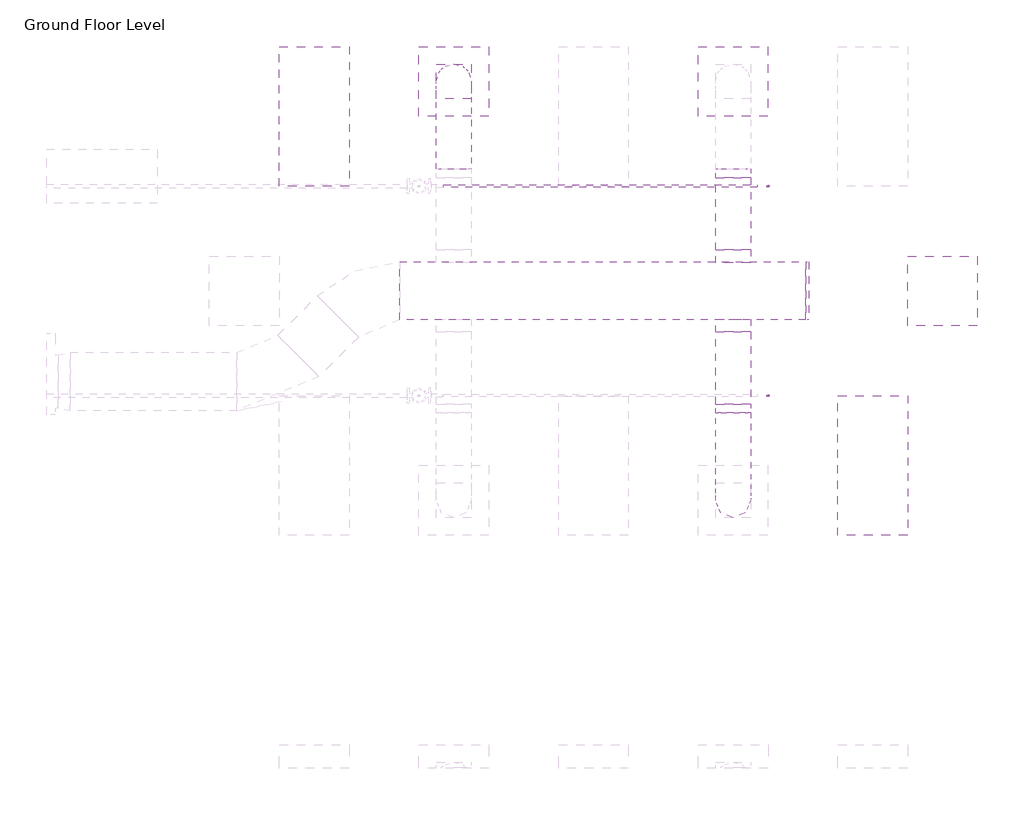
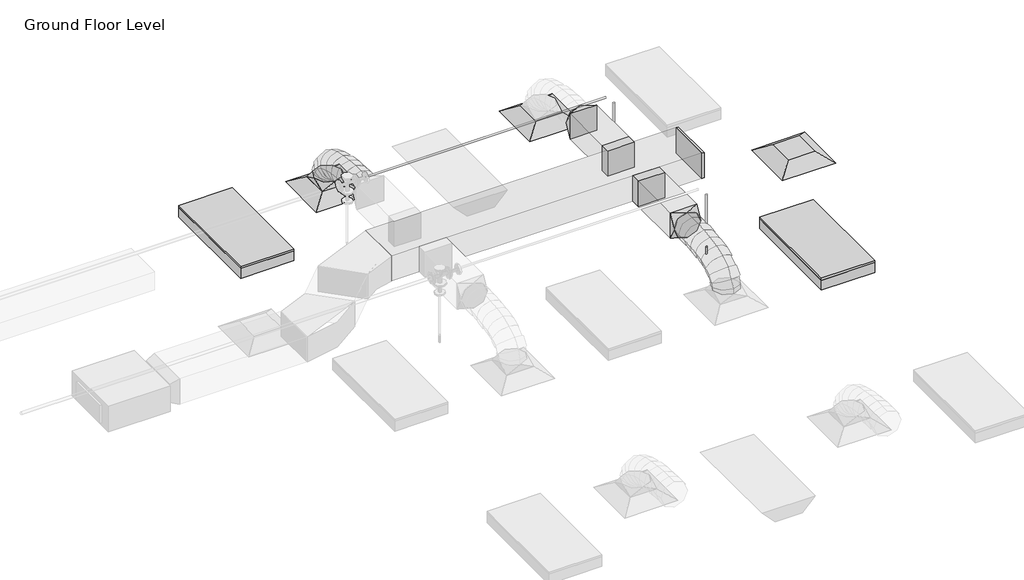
# One storey, part 67 of 68: 6 duct fittings, 5 duct segments, 3 air terminals, 3 pipe segments, 2 fire suppression terminals, 2 light fixtures.
"""IFC4 building model written with IfcOpenShell, lengths in millimetres."""

from ifc_helpers import new_model, si_unit, point, frame, frame_2d, origin, place, context, project, spatial, polyline, circle_curve, ellipse_curve, trimmed, segment, composite_curve, outline, extrude, transform, mapped, element, save
from ifc_brep_helpers import plane_surface, cylinder_surface, advanced_brep
from components import m_return_diffuser_600_x_600_face_300_x_300_connection_ff221211, m_rectangular_endcap_standard_72d4d00d, m_rectangular_takeoff_standard_cb0ccb98, m_rectangular_takeoff_standard_2be5eba1, m_rectangular_to_round_transition_angle_45_degree_641efff0, m_sprinkler_dry_pendent_hosted_15_mm_dry_pendent_9bda8e11, m_troffer_light_parabolic_rectangular1_0600x1200mm_4_lamp_86473d4a

model = new_model("IFC4")

# Units and contexts
model_context = context("Model", 3, world=origin())
ifc_project = project(units=[si_unit("LENGTHUNIT", "METRE", prefix="MILLI")], contexts=[model_context])

# Site, building, storey
site = spatial("IfcSite", under=ifc_project)
building = spatial("IfcBuilding", under=site)
storey = spatial("IfcBuildingStorey", under=building, Name="Ground Floor Level", Elevation=900.0)

# Air terminals
placement = place(None, origin())
m_return_diffuser_600_x_600_face_300_x_300_connection_shape = m_return_diffuser_600_x_600_face_300_x_300_connection_ff221211(model_context)
element("IfcAirTerminal", 1, ObjectType="M_Return Diffuser : 600 x 600 Face 300 x 300 Connection", at=placement, inside=storey, context=model_context, shape_type="MappedRepresentation", body=[
    mapped(m_return_diffuser_600_x_600_face_300_x_300_connection_shape, transform((14942.7672395, 18735.2153534, 3650.0), x_axis=(1.0, 0.0, 0.0), y_axis=(0.0, 1.0, 0.0), z_axis=(0.0, 0.0, 1.0))),
])
element("IfcAirTerminal", 2, ObjectType="M_Supply Diffuser : 600 x 600 Face 300 x 300 Connection", at=placement, inside=storey, context=model_context, shape_type="MappedRepresentation", body=[
    mapped(m_return_diffuser_600_x_600_face_300_x_300_connection_shape, transform((10742.7672395, 20535.2153534, 3650.0), x_axis=(1.0, 0.0, 0.0), y_axis=(0.0, 1.0, 0.0), z_axis=(0.0, 0.0, 1.0))),
])
element("IfcAirTerminal", 3, ObjectType="M_Supply Diffuser : 600 x 600 Face 300 x 300 Connection", at=placement, inside=storey, context=model_context, shape_type="MappedRepresentation", body=[
    mapped(m_return_diffuser_600_x_600_face_300_x_300_connection_shape, transform((13142.7672395, 20535.2153534, 3650.0), x_axis=(1.0, 0.0, 0.0), y_axis=(0.0, 1.0, 0.0), z_axis=(0.0, 0.0, 1.0))),
])

# Duct fittings
m_rectangular_endcap_standard_shape = m_rectangular_endcap_standard_72d4d00d(model_context)
element("IfcDuctFitting", 4, ObjectType="M_Rectangular Endcap : Standard", at=placement, inside=storey, context=model_context, shape_type="MappedRepresentation", body=[
    mapped(m_rectangular_endcap_standard_shape, transform((13766.7301365, 18735.2153534, 4100.0), x_axis=(1.0, 0.0, 0.0), y_axis=(0.0, 1.0, 0.0), z_axis=(0.0, 0.0, 1.0))),
])
m_rectangular_takeoff_standard_shape = m_rectangular_takeoff_standard_cb0ccb98(model_context)
element("IfcDuctFitting", 5, ObjectType="M_Rectangular Takeoff : Standard", at=placement, inside=storey, context=model_context, shape_type="MappedRepresentation", body=[
    mapped(m_rectangular_takeoff_standard_shape, transform((13142.7672395, 18985.2153534, 4100.0), x_axis=(0.0, 1.0, 0.0), y_axis=(1.0, 0.0, 0.0), z_axis=(0.0, 0.0, -1.0))),
])
m_rectangular_takeoff_standard_2_shape = m_rectangular_takeoff_standard_2be5eba1(model_context)
element("IfcDuctFitting", 6, ObjectType="M_Rectangular Takeoff : Standard", at=placement, inside=storey, context=model_context, shape_type="MappedRepresentation", body=[
    mapped(m_rectangular_takeoff_standard_2_shape, transform((13142.7672395, 18485.2153534, 4100.0), x_axis=(0.0, -1.0, 0.0), y_axis=(-1.0, 0.0, 0.0), z_axis=(0.0, 0.0, -1.0))),
])
m_rectangular_to_round_transition_angle_45_degree_shape = m_rectangular_to_round_transition_angle_45_degree_641efff0(model_context)
element("IfcDuctFitting", 7, ObjectType="M_Rectangular to Round Transition - Angle : 45 Degree", at=placement, inside=storey, context=model_context, shape_type="MappedRepresentation", body=[
    mapped(m_rectangular_to_round_transition_angle_45_degree_shape, transform((10742.7672395, 20535.2153534, 3751.6), x_axis=(0.0, 0.0, 1.0), y_axis=(-1.0, 0.0, 0.0), z_axis=(0.0, -1.0, 0.0))),
])
element("IfcDuctFitting", 8, ObjectType="M_Rectangular to Round Transition - Angle : 45 Degree", at=placement, inside=storey, context=model_context, shape_type="MappedRepresentation", body=[
    mapped(m_rectangular_to_round_transition_angle_45_degree_shape, transform((13142.7672395, 19707.8794221, 4100.0), x_axis=(0.0, 1.0, 0.0), y_axis=(-1.0, 0.0, 0.0), z_axis=(0.0, 0.0, 1.0))),
])
element("IfcDuctFitting", 9, ObjectType="M_Rectangular to Round Transition - Angle : 45 Degree", at=placement, inside=storey, context=model_context, shape_type="MappedRepresentation", body=[
    mapped(m_rectangular_to_round_transition_angle_45_degree_shape, transform((13142.7672395, 17762.5512847, 4100.0), x_axis=(0.0, -1.0, 0.0), y_axis=(1.0, 0.0, 0.0), z_axis=(0.0, 0.0, 1.0))),
])

# Duct segments
element("IfcDuctSegment", 10, ObjectType="Flex - Round", at=placement, inside=storey, context=model_context, shape_type="AdvancedBrep", body=[
    advanced_brep(
    [(10892.7672395, 20535.2153534, 3826.6), (10742.7672395, 20385.2153534, 3826.6), (10592.7672395, 20535.2153534, 3826.6), (10742.7672395, 20685.2153534, 3826.6), (10892.7672395, 20535.2153534, 3857.9377114), (10742.7672395, 20385.2153534, 3832.2944892), (10592.7672395, 20535.2153534, 3857.9377114), (10742.7672395, 20685.2153534, 3883.5809337), (10892.7672395, 20518.1994208, 3906.2505728), (10742.7672395, 20384.4614419, 3834.435049), (10592.7672395, 20518.1994208, 3906.2505728), (10742.7672395, 20651.9373998, 3978.0660967), (10892.7672395, 20471.0155405, 3968.7113131), (10742.7672395, 20366.8096412, 3857.8020236), (10592.7672395, 20471.0155405, 3968.7113131), (10742.7672395, 20575.2214397, 4079.6206026), (10892.7672395, 20399.4595883, 4016.0700639), (10742.7672395, 20330.5255327, 3881.8163788), (10592.7672395, 20399.4595883, 4016.0700639), (10742.7672395, 20468.3936439, 4150.3237489), (10892.7672395, 20309.3274403, 4050.4146682), (10742.7672395, 20265.7666771, 3906.4925606), (10592.7672395, 20309.3274403, 4050.4146682), (10742.7672395, 20352.8882035, 4194.3367758), (10892.7672395, 20206.4149725, 4073.8329691), (10742.7672395, 20179.8540485, 3926.0424542), (10592.7672395, 20206.4149725, 4073.8329691), (10742.7672395, 20232.9758965, 4221.6234841), (10892.7672395, 20096.5180607, 4088.4128097), (10742.7672395, 20081.3671584, 3939.1085462), (10592.7672395, 20096.5180607, 4088.4128097), (10742.7672395, 20111.6689631, 4237.7170733), (10892.7672395, 19985.4325811, 4096.242033), (10742.7672395, 19977.9272529, 3946.398915), (10592.7672395, 19985.4325811, 4096.242033), (10742.7672395, 19992.9379093, 4246.085151), (10892.7672395, 19878.9544096, 4099.4084821), (10742.7672395, 19876.2629165, 3949.4222102), (10592.7672395, 19878.9544096, 4099.4084821), (10742.7672395, 19881.6459027, 4249.394754), (10892.7672395, 19782.8794221, 4100.0), (10742.7672395, 19783.8029299, 4249.9971571), (10592.7672395, 19782.8794221, 4100.0), (10742.7672395, 19781.9559143, 3950.0028429)],
    [
        (0, 1, circle_curve(frame((10742.7672395, 20535.2153534, 3826.6), z_axis=(0.0, 0.0, -1.0), x_axis=(1.0, 0.0, 0.0)), 150.0)),
        (1, 2, circle_curve(frame((10742.7672395, 20535.2153534, 3826.6), z_axis=(0.0, 0.0, -1.0), x_axis=(1.0, 0.0, 0.0)), 150.0)),
        (2, 3, circle_curve(frame((10742.7672395, 20535.2153534, 3826.6), z_axis=(0.0, 0.0, -1.0), x_axis=(1.0, 0.0, 0.0)), 150.0)),
        (3, 0, circle_curve(frame((10742.7672395, 20535.2153534, 3826.6), z_axis=(0.0, 0.0, -1.0), x_axis=(1.0, 0.0, 0.0)), 150.0)),
        (0, 4),
        (4, 5, ellipse_curve(frame((10742.7672395, 20535.2153534, 3857.9377114), z_axis=(0.0, 0.16851014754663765, -0.9856999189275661), x_axis=(0.0, -0.985699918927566, -0.1685101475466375)), 152.176131, 150.0)),
        (5, 1),
        (5, 6, ellipse_curve(frame((10742.7672395, 20535.2153534, 3857.9377114), z_axis=(0.0, 0.16851014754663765, -0.9856999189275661), x_axis=(0.0, -0.985699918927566, -0.1685101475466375)), 152.176131, 150.0)),
        (6, 2),
        (6, 7, ellipse_curve(frame((10742.7672395, 20535.2153534, 3857.9377114), z_axis=(0.0, 0.16851014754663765, -0.9856999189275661), x_axis=(0.0, -0.985699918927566, -0.1685101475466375)), 152.176131, 150.0)),
        (7, 3),
        (7, 4, ellipse_curve(frame((10742.7672395, 20535.2153534, 3857.9377114), z_axis=(0.0, 0.16851014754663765, -0.9856999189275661), x_axis=(0.0, -0.985699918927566, -0.1685101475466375)), 152.176131, 150.0)),
        (4, 8),
        (8, 9, ellipse_curve(frame((10742.7672395, 20518.1994208, 3906.2505728), z_axis=(0.0, 0.4730922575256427, -0.881012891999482), x_axis=(0.0, -0.8810128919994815, -0.4730922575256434)), 151.8002519, 150.0)),
        (9, 5),
        (9, 10, ellipse_curve(frame((10742.7672395, 20518.1994208, 3906.2505728), z_axis=(0.0, 0.4730922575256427, -0.881012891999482), x_axis=(0.0, -0.8810128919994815, -0.4730922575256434)), 151.8002519, 150.0)),
        (10, 6),
        (10, 11, ellipse_curve(frame((10742.7672395, 20518.1994208, 3906.2505728), z_axis=(0.0, 0.4730922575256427, -0.881012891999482), x_axis=(0.0, -0.8810128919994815, -0.4730922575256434)), 151.8002519, 150.0)),
        (11, 7),
        (11, 8, ellipse_curve(frame((10742.7672395, 20518.1994208, 3906.2505728), z_axis=(0.0, 0.4730922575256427, -0.881012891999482), x_axis=(0.0, -0.8810128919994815, -0.4730922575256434)), 151.8002519, 150.0)),
        (8, 12),
        (12, 13, ellipse_curve(frame((10742.7672395, 20471.0155405, 3968.7113131), z_axis=(0.0, 0.7287877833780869, -0.68473963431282), x_axis=(0.0, -0.6847396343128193, -0.7287877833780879)), 152.1832446, 150.0)),
        (13, 9),
        (13, 14, ellipse_curve(frame((10742.7672395, 20471.0155405, 3968.7113131), z_axis=(0.0, 0.7287877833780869, -0.68473963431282), x_axis=(0.0, -0.6847396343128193, -0.7287877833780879)), 152.1832446, 150.0)),
        (14, 10),
        (14, 15, ellipse_curve(frame((10742.7672395, 20471.0155405, 3968.7113131), z_axis=(0.0, 0.7287877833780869, -0.68473963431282), x_axis=(0.0, -0.6847396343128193, -0.7287877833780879)), 152.1832446, 150.0)),
        (15, 11),
        (15, 12, ellipse_curve(frame((10742.7672395, 20471.0155405, 3968.7113131), z_axis=(0.0, 0.7287877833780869, -0.68473963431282), x_axis=(0.0, -0.6847396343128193, -0.7287877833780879)), 152.1832446, 150.0)),
        (12, 16),
        (16, 17, ellipse_curve(frame((10742.7672395, 20399.4595883, 4016.0700639), z_axis=(0.0, 0.8895859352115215, -0.45676784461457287), x_axis=(0.0, -0.45676784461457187, -0.889585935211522)), 150.91705, 150.0)),
        (17, 13),
        (17, 18, ellipse_curve(frame((10742.7672395, 20399.4595883, 4016.0700639), z_axis=(0.0, 0.8895859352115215, -0.45676784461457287), x_axis=(0.0, -0.45676784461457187, -0.889585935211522)), 150.91705, 150.0)),
        (18, 14),
        (18, 19, ellipse_curve(frame((10742.7672395, 20399.4595883, 4016.0700639), z_axis=(0.0, 0.8895859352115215, -0.45676784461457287), x_axis=(0.0, -0.45676784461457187, -0.889585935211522)), 150.91705, 150.0)),
        (19, 15),
        (19, 16, ellipse_curve(frame((10742.7672395, 20399.4595883, 4016.0700639), z_axis=(0.0, 0.8895859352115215, -0.45676784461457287), x_axis=(0.0, -0.45676784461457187, -0.889585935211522)), 150.91705, 150.0)),
        (16, 20),
        (20, 21, ellipse_curve(frame((10742.7672395, 20309.3274403, 4050.4146682), z_axis=(0.0, 0.9571203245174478, -0.2896906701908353), x_axis=(0.0, -0.28969067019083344, -0.9571203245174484)), 150.369921, 150.0)),
        (21, 17),
        (21, 22, ellipse_curve(frame((10742.7672395, 20309.3274403, 4050.4146682), z_axis=(0.0, 0.9571203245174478, -0.2896906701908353), x_axis=(0.0, -0.28969067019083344, -0.9571203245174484)), 150.369921, 150.0)),
        (22, 18),
        (22, 23, ellipse_curve(frame((10742.7672395, 20309.3274403, 4050.4146682), z_axis=(0.0, 0.9571203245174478, -0.2896906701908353), x_axis=(0.0, -0.28969067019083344, -0.9571203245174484)), 150.369921, 150.0)),
        (23, 19),
        (23, 20, ellipse_curve(frame((10742.7672395, 20309.3274403, 4050.4146682), z_axis=(0.0, 0.9571203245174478, -0.2896906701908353), x_axis=(0.0, -0.28969067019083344, -0.9571203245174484)), 150.369921, 150.0)),
        (20, 24),
        (24, 25, ellipse_curve(frame((10742.7672395, 20206.4149725, 4073.8329691), z_axis=(0.0, 0.9842313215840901, -0.17688613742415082), x_axis=(0.0, -0.17688613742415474, -0.9842313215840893)), 150.1583131, 150.0)),
        (25, 21),
        (25, 26, ellipse_curve(frame((10742.7672395, 20206.4149725, 4073.8329691), z_axis=(0.0, 0.9842313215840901, -0.17688613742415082), x_axis=(0.0, -0.17688613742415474, -0.9842313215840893)), 150.1583131, 150.0)),
        (26, 22),
        (26, 27, ellipse_curve(frame((10742.7672395, 20206.4149725, 4073.8329691), z_axis=(0.0, 0.9842313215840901, -0.17688613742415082), x_axis=(0.0, -0.17688613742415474, -0.9842313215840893)), 150.1583131, 150.0)),
        (27, 23),
        (27, 24, ellipse_curve(frame((10742.7672395, 20206.4149725, 4073.8329691), z_axis=(0.0, 0.9842313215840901, -0.17688613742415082), x_axis=(0.0, -0.17688613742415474, -0.9842313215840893)), 150.1583131, 150.0)),
        (24, 28),
        (28, 29, ellipse_curve(frame((10742.7672395, 20096.5180607, 4088.4128097), z_axis=(0.0, 0.9948906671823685, -0.10095821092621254), x_axis=(0.0, -0.10095821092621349, -0.9948906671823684)), 150.0710264, 150.0)),
        (29, 25),
        (29, 30, ellipse_curve(frame((10742.7672395, 20096.5180607, 4088.4128097), z_axis=(0.0, 0.9948906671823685, -0.10095821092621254), x_axis=(0.0, -0.10095821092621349, -0.9948906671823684)), 150.0710264, 150.0)),
        (30, 26),
        (30, 31, ellipse_curve(frame((10742.7672395, 20096.5180607, 4088.4128097), z_axis=(0.0, 0.9948906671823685, -0.10095821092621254), x_axis=(0.0, -0.10095821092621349, -0.9948906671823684)), 150.0710264, 150.0)),
        (31, 27),
        (31, 28, ellipse_curve(frame((10742.7672395, 20096.5180607, 4088.4128097), z_axis=(0.0, 0.9948906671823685, -0.10095821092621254), x_axis=(0.0, -0.10095821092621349, -0.9948906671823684)), 150.0710264, 150.0)),
        (28, 32),
        (32, 33, ellipse_curve(frame((10742.7672395, 19985.4325811, 4096.242033), z_axis=(0.0, 0.9987479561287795, -0.05002519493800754), x_axis=(0.0, -0.05002519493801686, -0.9987479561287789)), 150.0309634, 150.0)),
        (33, 29),
        (33, 34, ellipse_curve(frame((10742.7672395, 19985.4325811, 4096.242033), z_axis=(0.0, 0.9987479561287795, -0.05002519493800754), x_axis=(0.0, -0.05002519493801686, -0.9987479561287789)), 150.0309634, 150.0)),
        (34, 30),
        (34, 35, ellipse_curve(frame((10742.7672395, 19985.4325811, 4096.242033), z_axis=(0.0, 0.9987479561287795, -0.05002519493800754), x_axis=(0.0, -0.05002519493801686, -0.9987479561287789)), 150.0309634, 150.0)),
        (35, 31),
        (35, 32, ellipse_curve(frame((10742.7672395, 19985.4325811, 4096.242033), z_axis=(0.0, 0.9987479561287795, -0.05002519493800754), x_axis=(0.0, -0.05002519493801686, -0.9987479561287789)), 150.0309634, 150.0)),
        (32, 36),
        (36, 37, ellipse_curve(frame((10742.7672395, 19878.9544096, 4099.4084821), z_axis=(0.0, 0.9998390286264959, -0.017942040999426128), x_axis=(0.0, -0.017942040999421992, -0.999839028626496)), 150.0104193, 150.0)),
        (37, 33),
        (37, 38, ellipse_curve(frame((10742.7672395, 19878.9544096, 4099.4084821), z_axis=(0.0, 0.9998390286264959, -0.017942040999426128), x_axis=(0.0, -0.017942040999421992, -0.999839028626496)), 150.0104193, 150.0)),
        (38, 34),
        (38, 39, ellipse_curve(frame((10742.7672395, 19878.9544096, 4099.4084821), z_axis=(0.0, 0.9998390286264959, -0.017942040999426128), x_axis=(0.0, -0.017942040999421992, -0.999839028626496)), 150.0104193, 150.0)),
        (39, 35),
        (39, 36, ellipse_curve(frame((10742.7672395, 19878.9544096, 4099.4084821), z_axis=(0.0, 0.9998390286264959, -0.017942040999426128), x_axis=(0.0, -0.017942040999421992, -0.999839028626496)), 150.0104193, 150.0)),
        (40, 41, circle_curve(frame((10742.7672395, 19782.8794221, 4100.0), z_axis=(0.0, -0.9999810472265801, 0.006156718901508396), x_axis=(1.0, 0.0, 0.0)), 150.0)),
        (41, 42, circle_curve(frame((10742.7672395, 19782.8794221, 4100.0), z_axis=(0.0, -0.9999810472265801, 0.006156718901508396), x_axis=(1.0, 0.0, 0.0)), 150.0)),
        (42, 43, circle_curve(frame((10742.7672395, 19782.8794221, 4100.0), z_axis=(0.0, -0.9999810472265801, 0.006156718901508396), x_axis=(1.0, 0.0, 0.0)), 150.0)),
        (43, 40, circle_curve(frame((10742.7672395, 19782.8794221, 4100.0), z_axis=(0.0, -0.9999810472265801, 0.006156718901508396), x_axis=(1.0, 0.0, 0.0)), 150.0)),
        (36, 40),
        (43, 37),
        (42, 38),
        (41, 39),
    ],
    [
        plane_surface(frame((10742.7672395, 20385.2153534, 3826.6), z_axis=(0.0, 0.0, -1.0), x_axis=(1.0, 0.0, 0.0))),
        cylinder_surface(frame((10742.7672395, 20535.2153534, 3826.6), z_axis=(0.0, 0.0, -1.0), x_axis=(1.0, 0.0, 0.0)), 150.0),
        cylinder_surface(frame((10742.7672395, 20535.2153534, 3857.9377114), z_axis=(0.0, 0.33220087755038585, -0.9432086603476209), x_axis=(1.0, 0.0, 0.0)), 150.0),
        cylinder_surface(frame((10742.7672395, 20518.1994208, 3906.2505728), z_axis=(0.0, 0.6027625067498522, -0.7979206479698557), x_axis=(1.0, 0.0, 0.0)), 150.0),
        cylinder_surface(frame((10742.7672395, 20471.0155405, 3968.7113131), z_axis=(0.0, 0.833902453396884, -0.5519118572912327), x_axis=(1.0, 0.0, 0.0)), 150.0),
        cylinder_surface(frame((10742.7672395, 20399.4595883, 4016.0700639), z_axis=(0.0, 0.9344582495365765, -0.3560727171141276), x_axis=(1.0, 0.0, 0.0)), 150.0),
        cylinder_surface(frame((10742.7672395, 20309.3274403, 4050.4146682), z_axis=(0.0, 0.9750732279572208, -0.2218833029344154), x_axis=(1.0, 0.0, 0.0)), 150.0),
        cylinder_surface(frame((10742.7672395, 20206.4149725, 4073.8329691), z_axis=(0.0, 0.991314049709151, -0.13151598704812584), x_axis=(1.0, 0.0, 0.0)), 150.0),
        cylinder_surface(frame((10742.7672395, 20096.5180607, 4088.4128097), z_axis=(0.0, 0.9975255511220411, -0.07030487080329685), x_axis=(1.0, 0.0, 0.0)), 150.0),
        cylinder_surface(frame((10742.7672395, 19985.4325811, 4096.242033), z_axis=(0.0, 0.9995581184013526, -0.02972487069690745), x_axis=(1.0, 0.0, 0.0)), 150.0),
        plane_surface(frame((10742.7672395, 19781.9559143, 3950.0028429), z_axis=(0.0, -0.9999810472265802, 0.006156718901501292), x_axis=(1.0, 0.0, 0.0))),
        cylinder_surface(frame((10742.7672395, 19878.9544096, 4099.4084821), z_axis=(0.0, 0.9999810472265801, -0.006156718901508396), x_axis=(1.0, 0.0, 0.0)), 150.0),
    ],
    [
        (0, [[1, 2, 3, 4]]),
        (1, [[-1, 5, 6, 7]]),
        (1, [[-2, -7, 8, 9]]),
        (1, [[-3, -9, 10, 11]]),
        (1, [[-4, -11, 12, -5]]),
        (2, [[-6, 13, 14, 15]]),
        (2, [[-8, -15, 16, 17]]),
        (2, [[-10, -17, 18, 19]]),
        (2, [[-12, -19, 20, -13]]),
        (3, [[-14, 21, 22, 23]]),
        (3, [[-16, -23, 24, 25]]),
        (3, [[-18, -25, 26, 27]]),
        (3, [[-20, -27, 28, -21]]),
        (4, [[-22, 29, 30, 31]]),
        (4, [[-24, -31, 32, 33]]),
        (4, [[-26, -33, 34, 35]]),
        (4, [[-28, -35, 36, -29]]),
        (5, [[-30, 37, 38, 39]]),
        (5, [[-32, -39, 40, 41]]),
        (5, [[-34, -41, 42, 43]]),
        (5, [[-36, -43, 44, -37]]),
        (6, [[-38, 45, 46, 47]]),
        (6, [[-40, -47, 48, 49]]),
        (6, [[-42, -49, 50, 51]]),
        (6, [[-44, -51, 52, -45]]),
        (7, [[-46, 53, 54, 55]]),
        (7, [[-48, -55, 56, 57]]),
        (7, [[-50, -57, 58, 59]]),
        (7, [[-52, -59, 60, -53]]),
        (8, [[-54, 61, 62, 63]]),
        (8, [[-56, -63, 64, 65]]),
        (8, [[-58, -65, 66, 67]]),
        (8, [[-60, -67, 68, -61]]),
        (9, [[-62, 69, 70, 71]]),
        (9, [[-64, -71, 72, 73]]),
        (9, [[-66, -73, 74, 75]]),
        (9, [[-68, -75, 76, -69]]),
        (10, [[77, 78, 79, 80]]),
        (11, [[-70, 81, -80, 82]]),
        (11, [[-72, -82, -79, 83]]),
        (11, [[-74, -83, -78, 84]]),
        (11, [[-76, -84, -77, -81]]),
    ],
),
])
element("IfcDuctSegment", 11, ObjectType="Flex - Round", at=placement, inside=storey, context=model_context, shape_type="AdvancedBrep", body=[
    advanced_brep(
    [(13292.7672395, 16935.2153534, 3826.6), (13142.7672395, 16785.2153534, 3826.6), (12992.7672395, 16935.2153534, 3826.6), (13142.7672395, 17085.2153534, 3826.6), (13292.7672395, 16935.2153534, 3857.9377114), (13142.7672395, 16785.2153534, 3883.5809337), (12992.7672395, 16935.2153534, 3857.9377114), (13142.7672395, 17085.2153534, 3832.2944892), (13292.7672395, 16952.2312859, 3906.2505728), (13142.7672395, 16818.493307, 3978.0660967), (12992.7672395, 16952.2312859, 3906.2505728), (13142.7672395, 17085.9692649, 3834.435049), (13292.7672395, 16999.4151663, 3968.7113131), (13142.7672395, 16895.209267, 4079.6206026), (12992.7672395, 16999.4151663, 3968.7113131), (13142.7672395, 17103.6210655, 3857.8020236), (13292.7672395, 17070.9711184, 4016.0700639), (13142.7672395, 17002.0370628, 4150.3237489), (12992.7672395, 17070.9711184, 4016.0700639), (13142.7672395, 17139.9051741, 3881.8163788), (13292.7672395, 17161.1032664, 4050.4146682), (13142.7672395, 17117.5425033, 4194.3367758), (12992.7672395, 17161.1032664, 4050.4146682), (13142.7672395, 17204.6640296, 3906.4925606), (13292.7672395, 17264.0157343, 4073.8329691), (13142.7672395, 17237.4548103, 4221.6234841), (12992.7672395, 17264.0157343, 4073.8329691), (13142.7672395, 17290.5766583, 3926.0424542), (13292.7672395, 17373.912646, 4088.4128097), (13142.7672395, 17358.7617437, 4237.7170733), (12992.7672395, 17373.912646, 4088.4128097), (13142.7672395, 17389.0635483, 3939.1085462), (13292.7672395, 17484.9981256, 4096.242033), (13142.7672395, 17477.4927975, 4246.085151), (12992.7672395, 17484.9981256, 4096.242033), (13142.7672395, 17492.5034538, 3946.398915), (13292.7672395, 17591.4762972, 4099.4084821), (13142.7672395, 17588.7848041, 4249.394754), (12992.7672395, 17591.4762972, 4099.4084821), (13142.7672395, 17594.1677903, 3949.4222102), (13292.7672395, 17687.5512847, 4100.0), (13142.7672395, 17688.4747925, 3950.0028429), (12992.7672395, 17687.5512847, 4100.0), (13142.7672395, 17686.6277768, 4249.9971571)],
    [
        (0, 1, circle_curve(frame((13142.7672395, 16935.2153534, 3826.6), z_axis=(0.0, 0.0, -1.0), x_axis=(1.0, 0.0, 0.0)), 150.0)),
        (1, 2, circle_curve(frame((13142.7672395, 16935.2153534, 3826.6), z_axis=(0.0, 0.0, -1.0), x_axis=(1.0, 0.0, 0.0)), 150.0)),
        (2, 3, circle_curve(frame((13142.7672395, 16935.2153534, 3826.6), z_axis=(0.0, 0.0, -1.0), x_axis=(1.0, 0.0, 0.0)), 150.0)),
        (3, 0, circle_curve(frame((13142.7672395, 16935.2153534, 3826.6), z_axis=(0.0, 0.0, -1.0), x_axis=(1.0, 0.0, 0.0)), 150.0)),
        (0, 4),
        (4, 5, ellipse_curve(frame((13142.7672395, 16935.2153534, 3857.9377114), z_axis=(0.0, -0.16851014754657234, -0.9856999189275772), x_axis=(0.0, 0.9856999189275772, -0.1685101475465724)), 152.176131, 150.0)),
        (5, 1),
        (5, 6, ellipse_curve(frame((13142.7672395, 16935.2153534, 3857.9377114), z_axis=(0.0, -0.16851014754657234, -0.9856999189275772), x_axis=(0.0, 0.9856999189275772, -0.1685101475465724)), 152.176131, 150.0)),
        (6, 2),
        (6, 7, ellipse_curve(frame((13142.7672395, 16935.2153534, 3857.9377114), z_axis=(0.0, -0.16851014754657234, -0.9856999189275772), x_axis=(0.0, 0.9856999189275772, -0.1685101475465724)), 152.176131, 150.0)),
        (7, 3),
        (7, 4, ellipse_curve(frame((13142.7672395, 16935.2153534, 3857.9377114), z_axis=(0.0, -0.16851014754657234, -0.9856999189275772), x_axis=(0.0, 0.9856999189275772, -0.1685101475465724)), 152.176131, 150.0)),
        (4, 8),
        (8, 9, ellipse_curve(frame((13142.7672395, 16952.2312859, 3906.2505728), z_axis=(0.0, -0.4730922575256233, -0.8810128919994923), x_axis=(0.0, 0.8810128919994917, -0.47309225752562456)), 151.8002519, 150.0)),
        (9, 5),
        (9, 10, ellipse_curve(frame((13142.7672395, 16952.2312859, 3906.2505728), z_axis=(0.0, -0.4730922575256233, -0.8810128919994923), x_axis=(0.0, 0.8810128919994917, -0.47309225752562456)), 151.8002519, 150.0)),
        (10, 6),
        (10, 11, ellipse_curve(frame((13142.7672395, 16952.2312859, 3906.2505728), z_axis=(0.0, -0.4730922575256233, -0.8810128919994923), x_axis=(0.0, 0.8810128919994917, -0.47309225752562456)), 151.8002519, 150.0)),
        (11, 7),
        (11, 8, ellipse_curve(frame((13142.7672395, 16952.2312859, 3906.2505728), z_axis=(0.0, -0.4730922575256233, -0.8810128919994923), x_axis=(0.0, 0.8810128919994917, -0.47309225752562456)), 151.8002519, 150.0)),
        (8, 12),
        (12, 13, ellipse_curve(frame((13142.7672395, 16999.4151663, 3968.7113131), z_axis=(0.0, -0.7287877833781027, -0.684739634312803), x_axis=(0.0, 0.6847396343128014, -0.7287877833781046)), 152.1832446, 150.0)),
        (13, 9),
        (13, 14, ellipse_curve(frame((13142.7672395, 16999.4151663, 3968.7113131), z_axis=(0.0, -0.7287877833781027, -0.684739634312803), x_axis=(0.0, 0.6847396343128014, -0.7287877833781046)), 152.1832446, 150.0)),
        (14, 10),
        (14, 15, ellipse_curve(frame((13142.7672395, 16999.4151663, 3968.7113131), z_axis=(0.0, -0.7287877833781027, -0.684739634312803), x_axis=(0.0, 0.6847396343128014, -0.7287877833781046)), 152.1832446, 150.0)),
        (15, 11),
        (15, 12, ellipse_curve(frame((13142.7672395, 16999.4151663, 3968.7113131), z_axis=(0.0, -0.7287877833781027, -0.684739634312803), x_axis=(0.0, 0.6847396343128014, -0.7287877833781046)), 152.1832446, 150.0)),
        (12, 16),
        (16, 17, ellipse_curve(frame((13142.7672395, 17070.9711184, 4016.0700639), z_axis=(0.0, -0.8895859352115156, -0.45676784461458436), x_axis=(0.0, 0.45676784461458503, -0.8895859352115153)), 150.91705, 150.0)),
        (17, 13),
        (17, 18, ellipse_curve(frame((13142.7672395, 17070.9711184, 4016.0700639), z_axis=(0.0, -0.8895859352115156, -0.45676784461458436), x_axis=(0.0, 0.45676784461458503, -0.8895859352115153)), 150.91705, 150.0)),
        (18, 14),
        (18, 19, ellipse_curve(frame((13142.7672395, 17070.9711184, 4016.0700639), z_axis=(0.0, -0.8895859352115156, -0.45676784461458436), x_axis=(0.0, 0.45676784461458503, -0.8895859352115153)), 150.91705, 150.0)),
        (19, 15),
        (19, 16, ellipse_curve(frame((13142.7672395, 17070.9711184, 4016.0700639), z_axis=(0.0, -0.8895859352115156, -0.45676784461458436), x_axis=(0.0, 0.45676784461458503, -0.8895859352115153)), 150.91705, 150.0)),
        (16, 20),
        (20, 21, ellipse_curve(frame((13142.7672395, 17161.1032664, 4050.4146682), z_axis=(0.0, -0.9571203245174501, -0.2896906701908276), x_axis=(0.0, 0.28969067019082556, -0.9571203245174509)), 150.369921, 150.0)),
        (21, 17),
        (21, 22, ellipse_curve(frame((13142.7672395, 17161.1032664, 4050.4146682), z_axis=(0.0, -0.9571203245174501, -0.2896906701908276), x_axis=(0.0, 0.28969067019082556, -0.9571203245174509)), 150.369921, 150.0)),
        (22, 18),
        (22, 23, ellipse_curve(frame((13142.7672395, 17161.1032664, 4050.4146682), z_axis=(0.0, -0.9571203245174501, -0.2896906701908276), x_axis=(0.0, 0.28969067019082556, -0.9571203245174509)), 150.369921, 150.0)),
        (23, 19),
        (23, 20, ellipse_curve(frame((13142.7672395, 17161.1032664, 4050.4146682), z_axis=(0.0, -0.9571203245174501, -0.2896906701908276), x_axis=(0.0, 0.28969067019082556, -0.9571203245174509)), 150.369921, 150.0)),
        (20, 24),
        (24, 25, ellipse_curve(frame((13142.7672395, 17264.0157343, 4073.8329691), z_axis=(0.0, -0.9842313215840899, -0.176886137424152), x_axis=(0.0, 0.17688613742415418, -0.9842313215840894)), 150.1583131, 150.0)),
        (25, 21),
        (25, 26, ellipse_curve(frame((13142.7672395, 17264.0157343, 4073.8329691), z_axis=(0.0, -0.9842313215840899, -0.176886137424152), x_axis=(0.0, 0.17688613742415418, -0.9842313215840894)), 150.1583131, 150.0)),
        (26, 22),
        (26, 27, ellipse_curve(frame((13142.7672395, 17264.0157343, 4073.8329691), z_axis=(0.0, -0.9842313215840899, -0.176886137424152), x_axis=(0.0, 0.17688613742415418, -0.9842313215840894)), 150.1583131, 150.0)),
        (27, 23),
        (27, 24, ellipse_curve(frame((13142.7672395, 17264.0157343, 4073.8329691), z_axis=(0.0, -0.9842313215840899, -0.176886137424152), x_axis=(0.0, 0.17688613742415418, -0.9842313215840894)), 150.1583131, 150.0)),
        (24, 28),
        (28, 29, ellipse_curve(frame((13142.7672395, 17373.912646, 4088.4128097), z_axis=(0.0, -0.9948906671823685, -0.10095821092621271), x_axis=(0.0, 0.10095821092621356, -0.9948906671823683)), 150.0710264, 150.0)),
        (29, 25),
        (29, 30, ellipse_curve(frame((13142.7672395, 17373.912646, 4088.4128097), z_axis=(0.0, -0.9948906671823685, -0.10095821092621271), x_axis=(0.0, 0.10095821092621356, -0.9948906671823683)), 150.0710264, 150.0)),
        (30, 26),
        (30, 31, ellipse_curve(frame((13142.7672395, 17373.912646, 4088.4128097), z_axis=(0.0, -0.9948906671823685, -0.10095821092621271), x_axis=(0.0, 0.10095821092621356, -0.9948906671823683)), 150.0710264, 150.0)),
        (31, 27),
        (31, 28, ellipse_curve(frame((13142.7672395, 17373.912646, 4088.4128097), z_axis=(0.0, -0.9948906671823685, -0.10095821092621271), x_axis=(0.0, 0.10095821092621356, -0.9948906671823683)), 150.0710264, 150.0)),
        (28, 32),
        (32, 33, ellipse_curve(frame((13142.7672395, 17484.9981256, 4096.242033), z_axis=(0.0, -0.9987479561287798, -0.050025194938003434), x_axis=(0.0, 0.05002519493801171, -0.9987479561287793)), 150.0309634, 150.0)),
        (33, 29),
        (33, 34, ellipse_curve(frame((13142.7672395, 17484.9981256, 4096.242033), z_axis=(0.0, -0.9987479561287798, -0.050025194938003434), x_axis=(0.0, 0.05002519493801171, -0.9987479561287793)), 150.0309634, 150.0)),
        (34, 30),
        (34, 35, ellipse_curve(frame((13142.7672395, 17484.9981256, 4096.242033), z_axis=(0.0, -0.9987479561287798, -0.050025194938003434), x_axis=(0.0, 0.05002519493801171, -0.9987479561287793)), 150.0309634, 150.0)),
        (35, 31),
        (35, 32, ellipse_curve(frame((13142.7672395, 17484.9981256, 4096.242033), z_axis=(0.0, -0.9987479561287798, -0.050025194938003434), x_axis=(0.0, 0.05002519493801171, -0.9987479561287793)), 150.0309634, 150.0)),
        (32, 36),
        (36, 37, ellipse_curve(frame((13142.7672395, 17591.4762972, 4099.4084821), z_axis=(0.0, -0.9998390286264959, -0.01794204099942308), x_axis=(0.0, 0.017942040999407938, -0.9998390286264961)), 150.0104193, 150.0)),
        (37, 33),
        (37, 38, ellipse_curve(frame((13142.7672395, 17591.4762972, 4099.4084821), z_axis=(0.0, -0.9998390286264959, -0.01794204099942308), x_axis=(0.0, 0.017942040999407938, -0.9998390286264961)), 150.0104193, 150.0)),
        (38, 34),
        (38, 39, ellipse_curve(frame((13142.7672395, 17591.4762972, 4099.4084821), z_axis=(0.0, -0.9998390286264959, -0.01794204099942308), x_axis=(0.0, 0.017942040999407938, -0.9998390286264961)), 150.0104193, 150.0)),
        (39, 35),
        (39, 36, ellipse_curve(frame((13142.7672395, 17591.4762972, 4099.4084821), z_axis=(0.0, -0.9998390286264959, -0.01794204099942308), x_axis=(0.0, 0.017942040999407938, -0.9998390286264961)), 150.0104193, 150.0)),
        (40, 41, circle_curve(frame((13142.7672395, 17687.5512847, 4100.0), z_axis=(0.0, 0.9999810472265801, 0.006156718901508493), x_axis=(1.0, 0.0, 0.0)), 150.0)),
        (41, 42, circle_curve(frame((13142.7672395, 17687.5512847, 4100.0), z_axis=(0.0, 0.9999810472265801, 0.006156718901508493), x_axis=(1.0, 0.0, 0.0)), 150.0)),
        (42, 43, circle_curve(frame((13142.7672395, 17687.5512847, 4100.0), z_axis=(0.0, 0.9999810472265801, 0.006156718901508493), x_axis=(1.0, 0.0, 0.0)), 150.0)),
        (43, 40, circle_curve(frame((13142.7672395, 17687.5512847, 4100.0), z_axis=(0.0, 0.9999810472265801, 0.006156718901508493), x_axis=(1.0, 0.0, 0.0)), 150.0)),
        (36, 40),
        (43, 37),
        (42, 38),
        (41, 39),
    ],
    [
        plane_surface(frame((13142.7672395, 16785.2153534, 3826.6), z_axis=(0.0, 0.0, -1.0), x_axis=(1.0, 0.0, 0.0))),
        cylinder_surface(frame((13142.7672395, 16935.2153534, 3826.6), z_axis=(0.0, 0.0, -1.0), x_axis=(1.0, 0.0, 0.0)), 150.0),
        cylinder_surface(frame((13142.7672395, 16935.2153534, 3857.9377114), z_axis=(0.0, -0.3322008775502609, -0.9432086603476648), x_axis=(1.0, 0.0, 0.0)), 150.0),
        cylinder_surface(frame((13142.7672395, 16952.2312859, 3906.2505728), z_axis=(0.0, -0.6027625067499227, -0.7979206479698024), x_axis=(1.0, 0.0, 0.0)), 150.0),
        cylinder_surface(frame((13142.7672395, 16999.4151663, 3968.7113131), z_axis=(0.0, -0.8339024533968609, -0.5519118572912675), x_axis=(1.0, 0.0, 0.0)), 150.0),
        cylinder_surface(frame((13142.7672395, 17070.9711184, 4016.0700639), z_axis=(0.0, -0.9344582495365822, -0.35607271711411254), x_axis=(1.0, 0.0, 0.0)), 150.0),
        cylinder_surface(frame((13142.7672395, 17161.1032664, 4050.4146682), z_axis=(0.0, -0.9750732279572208, -0.22188330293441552), x_axis=(1.0, 0.0, 0.0)), 150.0),
        cylinder_surface(frame((13142.7672395, 17264.0157343, 4073.8329691), z_axis=(0.0, -0.9913140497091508, -0.13151598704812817), x_axis=(1.0, 0.0, 0.0)), 150.0),
        cylinder_surface(frame((13142.7672395, 17373.912646, 4088.4128097), z_axis=(0.0, -0.9975255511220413, -0.07030487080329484), x_axis=(1.0, 0.0, 0.0)), 150.0),
        cylinder_surface(frame((13142.7672395, 17484.9981256, 4096.242033), z_axis=(0.0, -0.9995581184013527, -0.029724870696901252), x_axis=(1.0, 0.0, 0.0)), 150.0),
        plane_surface(frame((13142.7672395, 17686.6277768, 4249.9971571), z_axis=(0.0, 0.9999810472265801, 0.0061567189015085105), x_axis=(1.0, 0.0, 0.0))),
        cylinder_surface(frame((13142.7672395, 17591.4762972, 4099.4084821), z_axis=(0.0, -0.9999810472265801, -0.006156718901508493), x_axis=(1.0, 0.0, 0.0)), 150.0),
    ],
    [
        (0, [[1, 2, 3, 4]]),
        (1, [[-1, 5, 6, 7]]),
        (1, [[-2, -7, 8, 9]]),
        (1, [[-3, -9, 10, 11]]),
        (1, [[-4, -11, 12, -5]]),
        (2, [[-6, 13, 14, 15]]),
        (2, [[-8, -15, 16, 17]]),
        (2, [[-10, -17, 18, 19]]),
        (2, [[-12, -19, 20, -13]]),
        (3, [[-14, 21, 22, 23]]),
        (3, [[-16, -23, 24, 25]]),
        (3, [[-18, -25, 26, 27]]),
        (3, [[-20, -27, 28, -21]]),
        (4, [[-22, 29, 30, 31]]),
        (4, [[-24, -31, 32, 33]]),
        (4, [[-26, -33, 34, 35]]),
        (4, [[-28, -35, 36, -29]]),
        (5, [[-30, 37, 38, 39]]),
        (5, [[-32, -39, 40, 41]]),
        (5, [[-34, -41, 42, 43]]),
        (5, [[-36, -43, 44, -37]]),
        (6, [[-38, 45, 46, 47]]),
        (6, [[-40, -47, 48, 49]]),
        (6, [[-42, -49, 50, 51]]),
        (6, [[-44, -51, 52, -45]]),
        (7, [[-46, 53, 54, 55]]),
        (7, [[-48, -55, 56, 57]]),
        (7, [[-50, -57, 58, 59]]),
        (7, [[-52, -59, 60, -53]]),
        (8, [[-54, 61, 62, 63]]),
        (8, [[-56, -63, 64, 65]]),
        (8, [[-58, -65, 66, 67]]),
        (8, [[-60, -67, 68, -61]]),
        (9, [[-62, 69, 70, 71]]),
        (9, [[-64, -71, 72, 73]]),
        (9, [[-66, -73, 74, 75]]),
        (9, [[-68, -75, 76, -69]]),
        (10, [[77, 78, 79, 80]]),
        (11, [[-70, 81, -80, 82]]),
        (11, [[-72, -82, -79, 83]]),
        (11, [[-74, -83, -78, 84]]),
        (11, [[-76, -84, -77, -81]]),
    ],
),
])
element("IfcDuctSegment", 12, ObjectType="Radius Elbows / Taps", at=placement, inside=storey, context=model_context, shape_type="SweptSolid", body=[
    extrude(outline(polyline([(10277.3903083, 18485.2153534), (10277.3903083, 18985.2153534), (13766.7301365, 18985.2153534), (13766.7301365, 18485.2153534), (10277.3903083, 18485.2153534)])), frame((0.0, 0.0, 3950.0), z_axis=(0.0, 0.0, 1.0), x_axis=(1.0, 0.0, 0.0)), (0.0, 0.0, 1.0), 300.0),
])
element("IfcDuctSegment", 13, ObjectType="Radius Elbows / Taps", at=placement, inside=storey, context=model_context, shape_type="SweptSolid", body=[
    extrude(outline(polyline([(13292.7672395, 19086.8153534), (12992.7672395, 19086.8153534), (12992.7672395, 19707.8794221), (13292.7672395, 19707.8794221), (13292.7672395, 19086.8153534)])), frame((0.0, 0.0, 3950.0), z_axis=(0.0, 0.0, 1.0), x_axis=(1.0, 0.0, 0.0)), (0.0, 0.0, 1.0), 300.0),
])
element("IfcDuctSegment", 14, ObjectType="Radius Elbows / Taps", at=placement, inside=storey, context=model_context, shape_type="SweptSolid", body=[
    extrude(outline(polyline([(12992.7672395, 18383.6153534), (13292.7672395, 18383.6153534), (13292.7672395, 17762.5512847), (12992.7672395, 17762.5512847), (12992.7672395, 18383.6153534)])), frame((0.0, 0.0, 3950.0), z_axis=(0.0, 0.0, 1.0), x_axis=(1.0, 0.0, 0.0)), (0.0, 0.0, 1.0), 300.0),
])

# Fire suppression terminals
m_sprinkler_dry_pendent_hosted_15_mm_dry_pendent_shape = m_sprinkler_dry_pendent_hosted_15_mm_dry_pendent_9bda8e11(model_context)
element("IfcFireSuppressionTerminal", 15, ObjectType="M_Sprinkler - Dry - Pendent - Hosted : 15 mm Dry Pendent", at=placement, inside=storey, context=model_context, shape_type="MappedRepresentation", body=[
    mapped(m_sprinkler_dry_pendent_hosted_15_mm_dry_pendent_shape, transform((13442.7672395, 19635.2153534, 3650.0), x_axis=(1.0, 0.0, 0.0), y_axis=(0.0, -1.0, 0.0), z_axis=(0.0, 0.0, -1.0))),
])
element("IfcFireSuppressionTerminal", 16, ObjectType="M_Sprinkler - Dry - Pendent - Hosted : 15 mm Dry Pendent", at=placement, inside=storey, context=model_context, shape_type="MappedRepresentation", body=[
    mapped(m_sprinkler_dry_pendent_hosted_15_mm_dry_pendent_shape, transform((13442.7672395, 17835.2153534, 3650.0), x_axis=(1.0, 0.0, 0.0), y_axis=(0.0, -1.0, 0.0), z_axis=(0.0, 0.0, -1.0))),
])

# Light fixtures
m_troffer_light_parabolic_rectangular1_0600x1200mm_4_lamp_shape = m_troffer_light_parabolic_rectangular1_0600x1200mm_4_lamp_86473d4a(model_context)
element("IfcLightFixture", 17, ObjectType="M_Troffer Light - Parabolic Rectangular1 : 0600x1200mm(4 Lamp) - 277V 2", at=placement, inside=storey, context=model_context, shape_type="MappedRepresentation", body=[
    mapped(m_troffer_light_parabolic_rectangular1_0600x1200mm_4_lamp_shape, transform((9483.3013074, 20253.918855, 3650.0), x_axis=(0.0, 1.0, 0.0), y_axis=(-1.0, 0.0, 0.0), z_axis=(0.0, 0.0, 1.0))),
])
element("IfcLightFixture", 18, ObjectType="M_Troffer Light - Parabolic Rectangular1 : 0600x1200mm(4 Lamp) - 277V 2", at=placement, inside=storey, context=model_context, shape_type="MappedRepresentation", body=[
    mapped(m_troffer_light_parabolic_rectangular1_0600x1200mm_4_lamp_shape, transform((14283.3013074, 17253.918855, 3650.0), x_axis=(0.0, 1.0, 0.0), y_axis=(-1.0, 0.0, 0.0), z_axis=(0.0, 0.0, 1.0))),
])

# Pipe segments
element("IfcPipeSegment", 19, ObjectType="Steel flanged", at=placement, inside=storey, context=model_context, shape_type="SweptSolid", body=[
    extrude(outline(composite_curve([segment(trimmed(circle_curve(frame_2d((13442.7672395, 19635.2153534)), 10.668), [point((13432.0992395, 19635.2153534))], [point((13442.7672395, 19645.8833534))], False, "CARTESIAN"), True, "CONTINUOUS"), segment(trimmed(circle_curve(frame_2d((13442.7672395, 19635.2153534)), 10.668), [point((13442.7672395, 19645.8833534))], [point((13453.4352395, 19635.2153534))], False, "CARTESIAN"), True, "CONTINUOUS"), segment(trimmed(circle_curve(frame_2d((13442.7672395, 19635.2153534)), 10.668), [point((13453.4352395, 19635.2153534))], [point((13442.7672395, 19624.5473534))], False, "CARTESIAN"), True, "CONTINUOUS"), segment(trimmed(circle_curve(frame_2d((13442.7672395, 19635.2153534)), 10.668), [point((13442.7672395, 19624.5473534))], [point((13432.0992395, 19635.2153534))], False, "CARTESIAN"), True, "CONTINUOUS")], self_intersect=False)), frame((0.0, 0.0, 3650.0), z_axis=(0.0, 0.0, 1.0), x_axis=(1.0, 0.0, 0.0)), (0.0, 0.0, 1.0), 616.9914062),
])
element("IfcPipeSegment", 20, ObjectType="Steel flanged", at=placement, inside=storey, context=model_context, shape_type="SweptSolid", body=[
    extrude(outline(composite_curve([segment(trimmed(circle_curve(frame_2d((13442.7672395, 17835.2153534)), 10.668), [point((13432.0992395, 17835.2153534))], [point((13442.7672395, 17845.8833534))], False, "CARTESIAN"), True, "CONTINUOUS"), segment(trimmed(circle_curve(frame_2d((13442.7672395, 17835.2153534)), 10.668), [point((13442.7672395, 17845.8833534))], [point((13453.4352395, 17835.2153534))], False, "CARTESIAN"), True, "CONTINUOUS"), segment(trimmed(circle_curve(frame_2d((13442.7672395, 17835.2153534)), 10.668), [point((13453.4352395, 17835.2153534))], [point((13442.7672395, 17824.5473534))], False, "CARTESIAN"), True, "CONTINUOUS"), segment(trimmed(circle_curve(frame_2d((13442.7672395, 17835.2153534)), 10.668), [point((13442.7672395, 17824.5473534))], [point((13432.0992395, 17835.2153534))], False, "CARTESIAN"), True, "CONTINUOUS")], self_intersect=False)), frame((0.0, 0.0, 3650.0), z_axis=(0.0, 0.0, 1.0), x_axis=(1.0, 0.0, 0.0)), (0.0, 0.0, 1.0), 616.9914062),
])
element("IfcPipeSegment", 21, ObjectType="Steel flanged", at=placement, inside=storey, context=model_context, shape_type="SweptSolid", body=[
    extrude(outline(composite_curve([segment(trimmed(circle_curve(frame_2d((19635.2153534, 4360.0)), 10.668), [point((19645.8833534, 4360.0))], [point((19635.2153534, 4349.332))], False, "CARTESIAN"), True, "CONTINUOUS"), segment(trimmed(circle_curve(frame_2d((19635.2153534, 4360.0)), 10.668), [point((19635.2153534, 4349.332))], [point((19624.5473534, 4360.0))], False, "CARTESIAN"), True, "CONTINUOUS"), segment(trimmed(circle_curve(frame_2d((19635.2153534, 4360.0)), 10.668), [point((19624.5473534, 4360.0))], [point((19635.2153534, 4370.668))], False, "CARTESIAN"), True, "CONTINUOUS"), segment(trimmed(circle_curve(frame_2d((19635.2153534, 4360.0)), 10.668), [point((19635.2153534, 4370.668))], [point((19645.8833534, 4360.0))], False, "CARTESIAN"), True, "CONTINUOUS")], self_intersect=False)), frame((10657.4758332, 0.0, 0.0), z_axis=(1.0, 0.0, 0.0), x_axis=(0.0, 1.0, 0.0)), (0.0, 0.0, 1.0), 2692.2828125),
])

save(model, "model.ifc")
